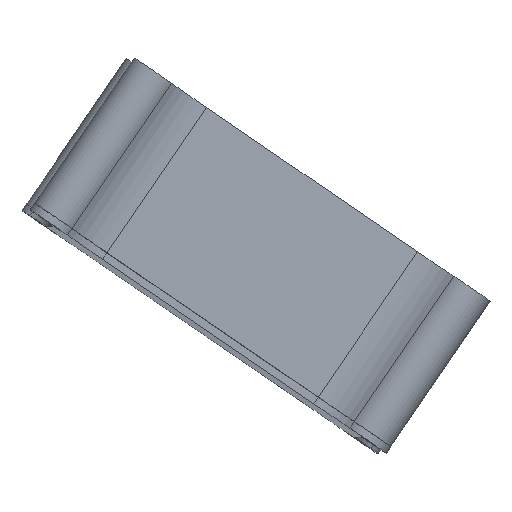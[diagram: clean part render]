
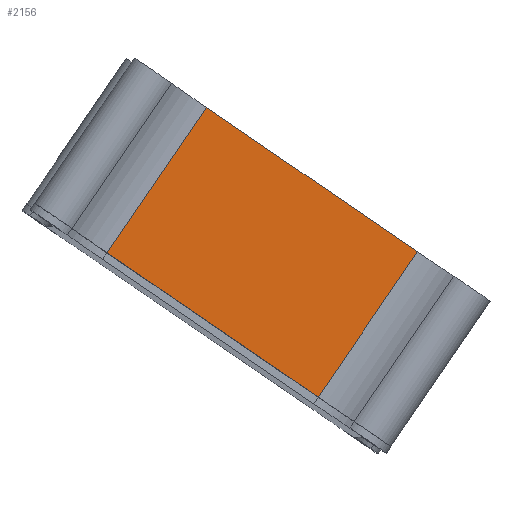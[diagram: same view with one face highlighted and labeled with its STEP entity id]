
A CAD part, top view. The second image highlights one B-rep face of the part: STEP entity #2156.
In plain terms, the highlighted planar face has unit normal (0.021, 0, 1).
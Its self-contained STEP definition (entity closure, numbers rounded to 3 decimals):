
#2129=AXIS2_PLACEMENT_3D('Plane Axis2P3D',#2126,#2127,#2128) ;
#2100=CARTESIAN_POINT('Line Origine',(44.356,-3.121,24.353)) ;
#2104=CARTESIAN_POINT('Vertex',(39.928,-9.602,24.448)) ;
#2106=CARTESIAN_POINT('Vertex',(48.785,3.36,24.258)) ;
#2126=CARTESIAN_POINT('Axis2P3D Location',(42.749,-5.474,24.388)) ;
#2131=CARTESIAN_POINT('Line Origine',(25.558,9.731,24.757)) ;
#2135=CARTESIAN_POINT('Vertex',(21.129,3.25,24.852)) ;
#2137=CARTESIAN_POINT('Vertex',(29.986,16.212,24.662)) ;
#2140=CARTESIAN_POINT('Line Origine',(30.529,-3.176,24.65)) ;
#2145=CARTESIAN_POINT('Line Origine',(39.386,9.786,24.46)) ;
#2101=DIRECTION('Vector Direction',(0.564,0.826,-0.012)) ;
#2127=DIRECTION('Axis2P3D Direction',(-0.021,0.,-1.)) ;
#2128=DIRECTION('Axis2P3D XDirection',(-0.825,0.564,0.018)) ;
#2132=DIRECTION('Vector Direction',(0.564,0.826,-0.012)) ;
#2141=DIRECTION('Vector Direction',(-0.825,0.564,0.018)) ;
#2146=DIRECTION('Vector Direction',(-0.825,0.564,0.018)) ;
#2102=VECTOR('Line Direction',#2101,1.) ;
#2133=VECTOR('Line Direction',#2132,1.) ;
#2142=VECTOR('Line Direction',#2141,1.) ;
#2147=VECTOR('Line Direction',#2146,1.) ;
#2151=ORIENTED_EDGE('',*,*,#2139,.F.) ;
#2152=ORIENTED_EDGE('',*,*,#2144,.T.) ;
#2153=ORIENTED_EDGE('',*,*,#2108,.T.) ;
#2154=ORIENTED_EDGE('',*,*,#2149,.F.) ;
#2156=ADVANCED_FACE('GehaeuseUnterteil.1\\PartBody',(#2155),#2130,.F.) ;
#2108=EDGE_CURVE('',#2105,#2107,#2103,.T.) ;
#2139=EDGE_CURVE('',#2136,#2138,#2134,.T.) ;
#2144=EDGE_CURVE('',#2136,#2105,#2143,.F.) ;
#2149=EDGE_CURVE('',#2138,#2107,#2148,.F.) ;
#2150=EDGE_LOOP('',(#2151,#2152,#2153,#2154)) ;
#2155=FACE_OUTER_BOUND('',#2150,.T.) ;
#2103=LINE('Line',#2100,#2102) ;
#2134=LINE('Line',#2131,#2133) ;
#2143=LINE('Line',#2140,#2142) ;
#2148=LINE('Line',#2145,#2147) ;
#2130=PLANE('',#2129) ;
#2105=VERTEX_POINT('',#2104) ;
#2107=VERTEX_POINT('',#2106) ;
#2136=VERTEX_POINT('',#2135) ;
#2138=VERTEX_POINT('',#2137) ;
